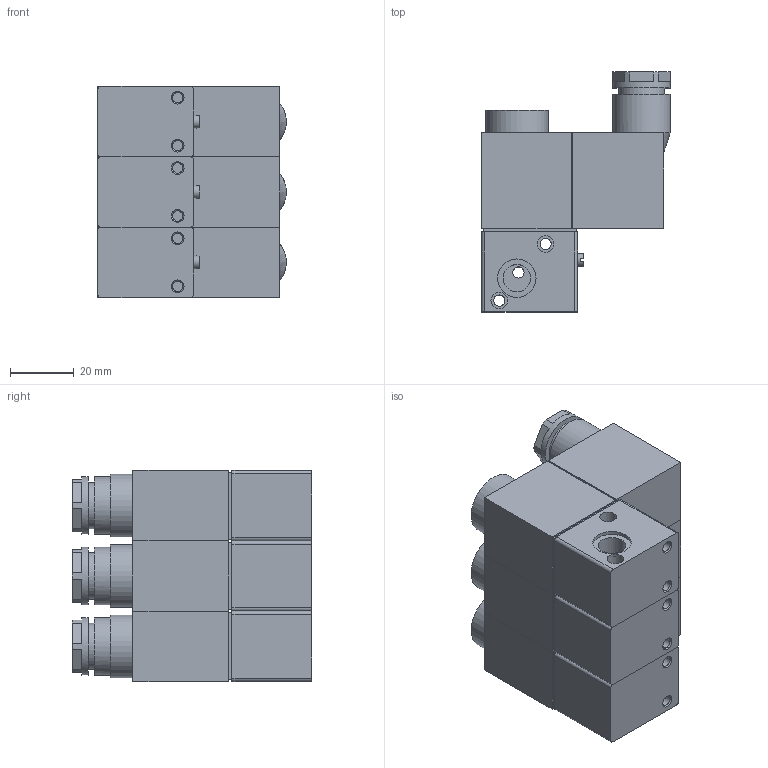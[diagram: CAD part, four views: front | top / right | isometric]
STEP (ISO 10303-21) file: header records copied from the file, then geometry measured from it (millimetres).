
FILE_DESCRIPTION(/* description */ ('STEP AP214'),/* implementation_level */ '2;1');
FILE_NAME(/* name */ '86-MS-3V-03-xxx.stp',/* time_stamp */ '2026-01-15T09:19:00+01:00',/* author */ ('Tschernatsch'),/* organization */ ('CADENAS'),/* preprocessor_version */ 'ST-DEVELOPER v20',/* originating_system */ 'Autodesk Inventor 2024',/* authorisation */ ' ');
FILE_SCHEMA (('AUTOMOTIVE_DESIGN { 1 0 10303 214 3 1 1 }'));
Length unit declared in the file: millimetre
Products named in the file (3): 3v1-06-LD-DC24V-3F; 3v1-06-LD-DC24V-3F3; 3v1-06-LD-DC24V-3F2
Assembly tree (6 placements, depth 2):
  3v1-06-LD-DC24V-3F
    3v1-06-LD-DC24V-3F3  x3
    3v1-06-LD-DC24V-3F2  x3
Bounding box: 59 x 75 x 66 mm (x, y, z)
Volume: 174594.2 mm3; surface area: 44582.2 mm2
Topology: 6 solids, 6 shells, 270 faces, 585 edges, 387 vertices
Faces by surface type: plane 183, cylinder 75, cone 12
Full cylindrical faces by diameter (mm): 3.242 x6, 3.5 x9, 4 x3, 4.3 x3, 5.2 x12, 8.566 x9, 11 x3, 12 x6, 14.4 x3, 18 x6, 19.6 x3
Entity records: 2633 total; most frequent: DIRECTION 465, CARTESIAN_POINT 425, ORIENTED_EDGE 390, EDGE_CURVE 195, AXIS2_PLACEMENT_3D 172, VERTEX_POINT 129, LINE 121, VECTOR 121
